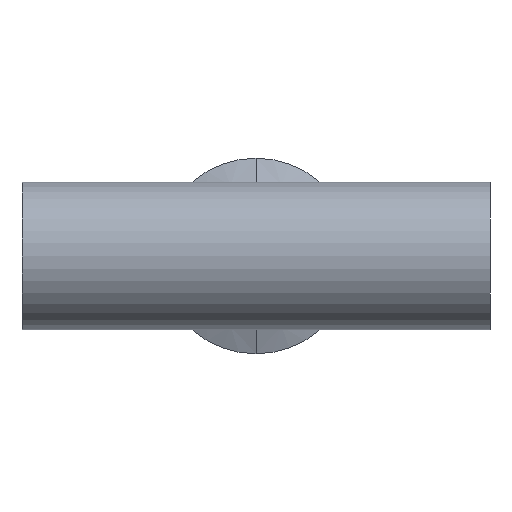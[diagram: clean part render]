
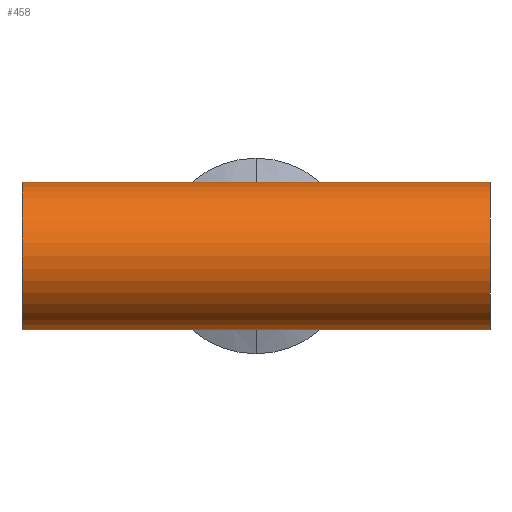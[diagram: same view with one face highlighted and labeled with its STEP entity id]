
A CAD part, front view. The second image highlights one B-rep face of the part: STEP entity #458.
In plain terms, the highlighted cylindrical face has radius 19.05 mm (diameter 38.1 mm), a partial arc.
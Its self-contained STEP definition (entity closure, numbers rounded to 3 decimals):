
#130 = CIRCLE ( 'NONE', #1304, 19.05 ) ;
#149 = LINE ( 'NONE', #330, #369 ) ;
#179 = DIRECTION ( 'NONE',  ( 1., 0., 0. ) ) ;
#198 = VECTOR ( 'NONE', #179, 1000. ) ;
#209 = EDGE_CURVE ( 'NONE', #1481, #1720, #130, .T. ) ;
#314 = ORIENTED_EDGE ( 'NONE', *, *, #1187, .T. ) ;
#330 = CARTESIAN_POINT ( 'NONE',  ( -60.3, 0., -19.05 ) ) ;
#345 = DIRECTION ( 'NONE',  ( 1., 0., 0. ) ) ;
#369 = VECTOR ( 'NONE', #345, 1000. ) ;
#458 = ADVANCED_FACE ( 'NONE', ( #904 ), #591, .T. ) ;
#469 = CARTESIAN_POINT ( 'NONE',  ( -60.3, 0., 19.05 ) ) ;
#567 = CARTESIAN_POINT ( 'NONE',  ( 60.3, 0., 0. ) ) ;
#591 = CYLINDRICAL_SURFACE ( 'NONE', #1147, 19.05 ) ;
#636 = VERTEX_POINT ( 'NONE', #847 ) ;
#658 = ORIENTED_EDGE ( 'NONE', *, *, #969, .F. ) ;
#679 = CARTESIAN_POINT ( 'NONE',  ( -60.3, 0., 0. ) ) ;
#684 = DIRECTION ( 'NONE',  ( 1., 0., 0. ) ) ;
#748 = DIRECTION ( 'NONE',  ( 0., 0., -1. ) ) ;
#777 = CARTESIAN_POINT ( 'NONE',  ( 60.3, 0., 19.05 ) ) ;
#818 = LINE ( 'NONE', #469, #198 ) ;
#847 = CARTESIAN_POINT ( 'NONE',  ( -60.3, 0., 19.05 ) ) ;
#904 = FACE_OUTER_BOUND ( 'NONE', #1440, .T. ) ;
#954 = ORIENTED_EDGE ( 'NONE', *, *, #1054, .T. ) ;
#969 = EDGE_CURVE ( 'NONE', #636, #1720, #818, .T. ) ;
#1054 = EDGE_CURVE ( 'NONE', #1509, #1481, #149, .T. ) ;
#1109 = DIRECTION ( 'NONE',  ( 0., 0., -1. ) ) ;
#1110 = DIRECTION ( 'NONE',  ( -1., 0., 0. ) ) ;
#1147 = AXIS2_PLACEMENT_3D ( 'NONE', #1655, #1252, #1109 ) ;
#1160 = DIRECTION ( 'NONE',  ( 0., 0., -1. ) ) ;
#1187 = EDGE_CURVE ( 'NONE', #636, #1509, #1567, .T. ) ;
#1252 = DIRECTION ( 'NONE',  ( 1., 0., 0. ) ) ;
#1304 = AXIS2_PLACEMENT_3D ( 'NONE', #567, #1110, #1160 ) ;
#1371 = CARTESIAN_POINT ( 'NONE',  ( -60.3, 0., -19.05 ) ) ;
#1372 = AXIS2_PLACEMENT_3D ( 'NONE', #679, #684, #748 ) ;
#1440 = EDGE_LOOP ( 'NONE', ( #658, #314, #954, #1639 ) ) ;
#1481 = VERTEX_POINT ( 'NONE', #1701 ) ;
#1509 = VERTEX_POINT ( 'NONE', #1371 ) ;
#1567 = CIRCLE ( 'NONE', #1372, 19.05 ) ;
#1639 = ORIENTED_EDGE ( 'NONE', *, *, #209, .T. ) ;
#1655 = CARTESIAN_POINT ( 'NONE',  ( -60.3, 0., 0. ) ) ;
#1701 = CARTESIAN_POINT ( 'NONE',  ( 60.3, 0., -19.05 ) ) ;
#1720 = VERTEX_POINT ( 'NONE', #777 ) ;
